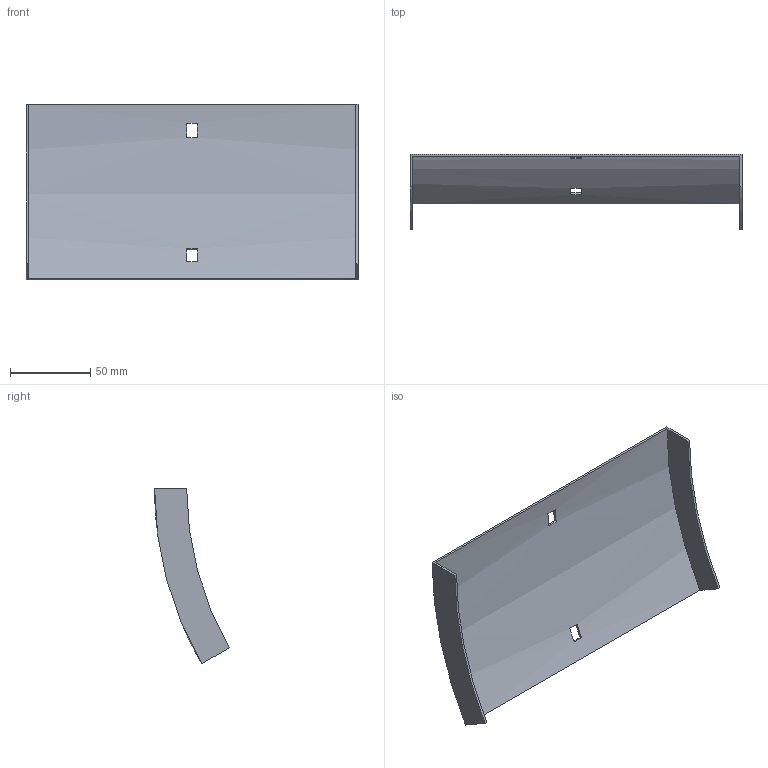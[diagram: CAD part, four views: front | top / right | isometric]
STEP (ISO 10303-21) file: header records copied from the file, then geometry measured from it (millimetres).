
FILE_DESCRIPTION (( 'STEP AP214' ), '1' );
FILE_NAME ('35N1J200.step', '2025-02-21T09:11:25', ( '' ), ( '' ), 'SwSTEP 2.0', 'SolidWorks 2023', '' );
FILE_SCHEMA (( 'AUTOMOTIVE_DESIGN' ));
Length unit declared in the file: millimetre
Products named in the file (1): 35N1J200
Bounding box: 207 x 46.66 x 109.5 mm (x, y, z)
Volume: 41358.2 mm3; surface area: 56283.3 mm2
Topology: 1 solids, 1 shells, 18 faces, 48 edges, 32 vertices
Faces by surface type: plane 14, cylinder 4
Entity records: 599 total; most frequent: DIRECTION 102, CARTESIAN_POINT 99, ORIENTED_EDGE 96, EDGE_CURVE 48, AXIS2_PLACEMENT_3D 35, VECTOR 32, LINE 32, VERTEX_POINT 32
